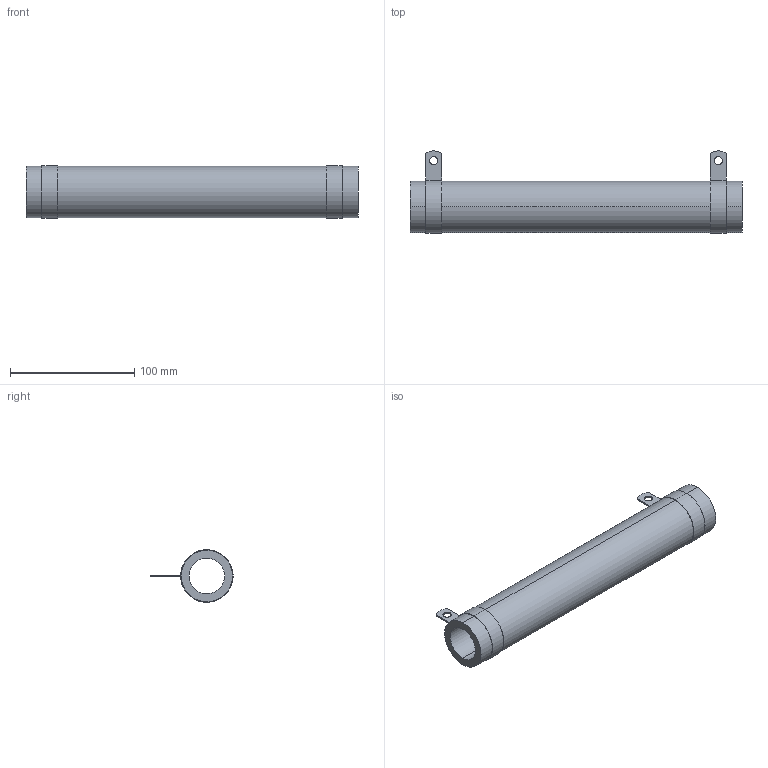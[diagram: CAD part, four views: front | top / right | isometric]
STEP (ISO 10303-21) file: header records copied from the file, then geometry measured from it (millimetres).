
FILE_DESCRIPTION (( 'STEP AP203' ), '1' );
FILE_NAME ('RBEF0500xxxxxKGB00.STEP', '2014-04-04T19:00:24', ( '' ), ( '' ), 'SwSTEP 2.0', 'SolidWorks 2012', '' );
FILE_SCHEMA (( 'CONFIG_CONTROL_DESIGN' ));
Length unit declared in the file: millimetre
Products named in the file (3): RBEF0500xxxxxKGB00; DAL013-07_DAL013-148; DAL15-182-XXX_DAL15-182-326-CLOSED
Assembly tree (3 placements, depth 2):
  RBEF0500xxxxxKGB00
    DAL013-07_DAL013-148
    DAL15-182-XXX_DAL15-182-326-CLOSED  x2
Bounding box: 266.7 x 66.03 x 42.21 mm (x, y, z)
Volume: 187897.7 mm3; surface area: 69013.5 mm2
Topology: 3 solids, 3 shells, 76 faces, 162 edges, 92 vertices
Faces by surface type: plane 46, cylinder 30
Entity records: 1432 total; most frequent: DIRECTION 215, CARTESIAN_POINT 184, ORIENTED_EDGE 174, EDGE_CURVE 87, AXIS2_PLACEMENT_3D 81, LINE 53, VECTOR 53, VERTEX_POINT 50
